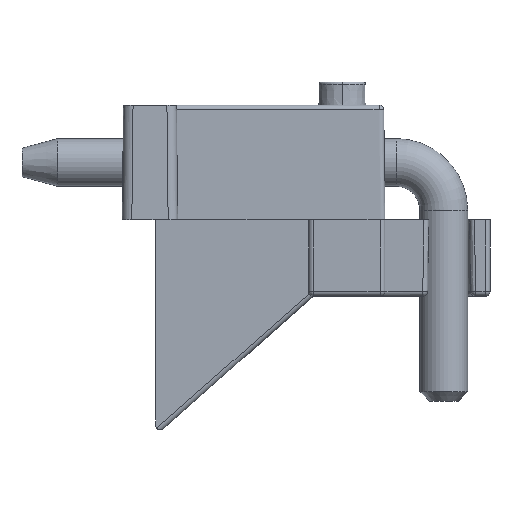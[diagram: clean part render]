
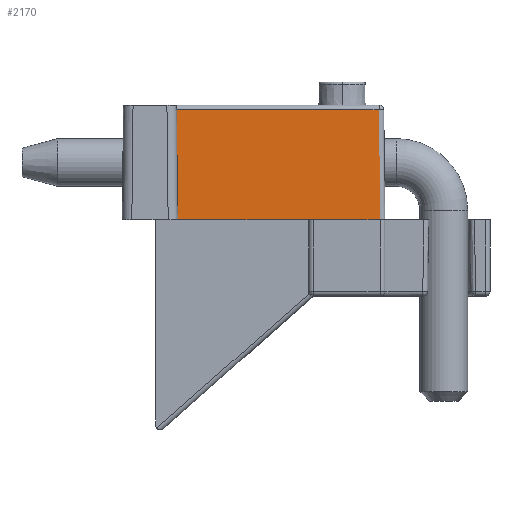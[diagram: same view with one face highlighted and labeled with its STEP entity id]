
A CAD part, left-side view. The second image highlights one B-rep face of the part: STEP entity #2170.
In plain terms, the highlighted planar face has unit normal (-1, 0, 0.011).
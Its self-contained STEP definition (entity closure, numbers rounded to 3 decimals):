
#282 = VECTOR ( 'NONE', #2120, 1000. ) ;
#413 = DIRECTION ( 'NONE',  ( -0.01, -0.01, -1. ) ) ;
#442 = AXIS2_PLACEMENT_3D ( 'NONE', #2828, #845, #2777 ) ;
#454 = EDGE_CURVE ( 'NONE', #3347, #2745, #1238, .T. ) ;
#555 = VECTOR ( 'NONE', #933, 1000. ) ;
#558 = VECTOR ( 'NONE', #3160, 1000. ) ;
#633 = LINE ( 'NONE', #2988, #3066 ) ;
#688 = CARTESIAN_POINT ( 'NONE',  ( -5.65, 9.7, 0. ) ) ;
#692 = CARTESIAN_POINT ( 'NONE',  ( -5.65, -4.5, 0. ) ) ;
#748 = ORIENTED_EDGE ( 'NONE', *, *, #986, .F. ) ;
#812 = FACE_OUTER_BOUND ( 'NONE', #3530, .T. ) ;
#845 = DIRECTION ( 'NONE',  ( -1., 0., 0.01 ) ) ;
#933 = DIRECTION ( 'NONE',  ( 0., 1., 0. ) ) ;
#986 = EDGE_CURVE ( 'NONE', #3543, #3347, #2749, .T. ) ;
#1049 = DIRECTION ( 'NONE',  ( 0., -1., 0. ) ) ;
#1141 = LINE ( 'NONE', #2259, #555 ) ;
#1163 = CARTESIAN_POINT ( 'NONE',  ( -5.65, 9.7, 0. ) ) ;
#1170 = ORIENTED_EDGE ( 'NONE', *, *, #1902, .T. ) ;
#1238 = LINE ( 'NONE', #1248, #3550 ) ;
#1248 = CARTESIAN_POINT ( 'NONE',  ( -5.65, -4., 0. ) ) ;
#1261 = VECTOR ( 'NONE', #413, 1000. ) ;
#1421 = EDGE_CURVE ( 'NONE', #2125, #2880, #1141, .T. ) ;
#1487 = CARTESIAN_POINT ( 'NONE',  ( -5.65, -11.5, 0. ) ) ;
#1597 = LINE ( 'NONE', #688, #1261 ) ;
#1650 = CARTESIAN_POINT ( 'NONE',  ( -5.53, 9.82, 11.505 ) ) ;
#1743 = LINE ( 'NONE', #2047, #558 ) ;
#1814 = DIRECTION ( 'NONE',  ( 0., 1., 0. ) ) ;
#1902 = EDGE_CURVE ( 'NONE', #3583, #2745, #633, .T. ) ;
#2047 = CARTESIAN_POINT ( 'NONE',  ( -5.648, -11.498, 0.222 ) ) ;
#2120 = DIRECTION ( 'NONE',  ( 0., 1., 0. ) ) ;
#2125 = VERTEX_POINT ( 'NONE', #2545 ) ;
#2170 = ADVANCED_FACE ( 'NONE', ( #812 ), #3055, .T. ) ;
#2259 = CARTESIAN_POINT ( 'NONE',  ( -5.53, 9.826, 11.505 ) ) ;
#2433 = CARTESIAN_POINT ( 'NONE',  ( -5.65, -11.5, 0. ) ) ;
#2447 = ORIENTED_EDGE ( 'NONE', *, *, #2695, .T. ) ;
#2486 = CARTESIAN_POINT ( 'NONE',  ( -5.65, -4., 0. ) ) ;
#2545 = CARTESIAN_POINT ( 'NONE',  ( -5.53, -11.38, 11.505 ) ) ;
#2634 = ORIENTED_EDGE ( 'NONE', *, *, #454, .F. ) ;
#2695 = EDGE_CURVE ( 'NONE', #3543, #2125, #1743, .T. ) ;
#2745 = VERTEX_POINT ( 'NONE', #692 ) ;
#2749 = LINE ( 'NONE', #2486, #282 ) ;
#2777 = DIRECTION ( 'NONE',  ( 0.01, 0., 1. ) ) ;
#2828 = CARTESIAN_POINT ( 'NONE',  ( -5.65, 9.7, 0. ) ) ;
#2880 = VERTEX_POINT ( 'NONE', #1650 ) ;
#2988 = CARTESIAN_POINT ( 'NONE',  ( -5.65, 9.7, 0. ) ) ;
#3055 = PLANE ( 'NONE',  #442 ) ;
#3066 = VECTOR ( 'NONE', #1049, 1000. ) ;
#3160 = DIRECTION ( 'NONE',  ( 0.01, 0.01, 1. ) ) ;
#3173 = EDGE_CURVE ( 'NONE', #2880, #3583, #1597, .T. ) ;
#3214 = ORIENTED_EDGE ( 'NONE', *, *, #1421, .T. ) ;
#3224 = ORIENTED_EDGE ( 'NONE', *, *, #3173, .T. ) ;
#3347 = VERTEX_POINT ( 'NONE', #1487 ) ;
#3530 = EDGE_LOOP ( 'NONE', ( #2447, #3214, #3224, #1170, #2634, #748 ) ) ;
#3543 = VERTEX_POINT ( 'NONE', #2433 ) ;
#3550 = VECTOR ( 'NONE', #1814, 1000. ) ;
#3583 = VERTEX_POINT ( 'NONE', #1163 ) ;
